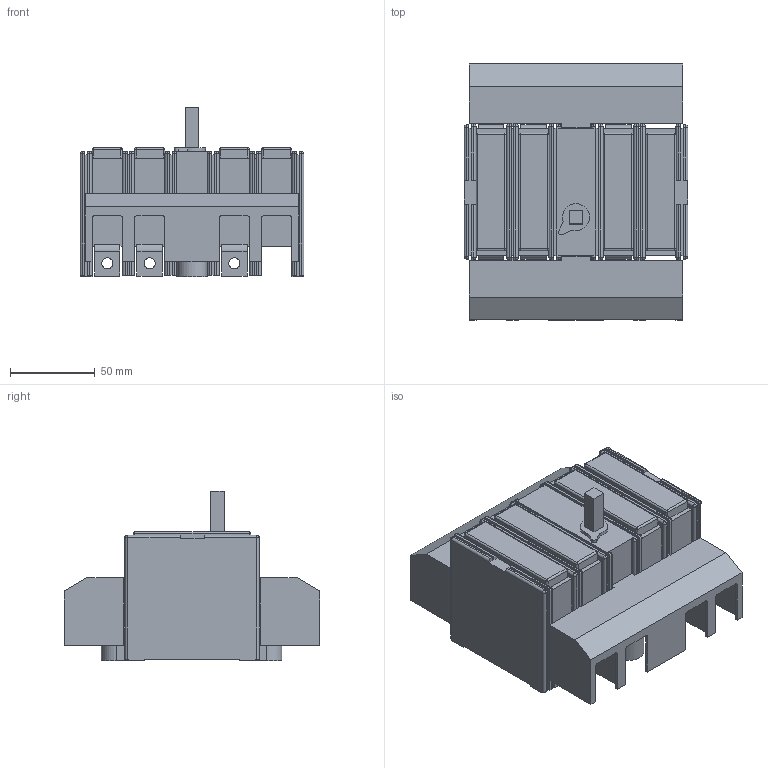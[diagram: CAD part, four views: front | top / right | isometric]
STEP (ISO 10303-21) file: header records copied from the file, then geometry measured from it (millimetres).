
FILE_DESCRIPTION(/* description */ (''),/* implementation_level */ '2;1');
FILE_NAME(/* name */ 'RA100 P3 C z oslonka zaciskow.stp',/* time_stamp */ '2021-08-17T14:42:56+02:00',/* author */ (''),/* organization */ (''),/* preprocessor_version */ 'ST-DEVELOPER v18.1',/* originating_system */ 'SIEMENS PLM Software NX 1965',/* authorisation */ '');
FILE_SCHEMA (('AUTOMOTIVE_DESIGN { 1 0 10303 214 3 1 1 1 }'));
Length unit declared in the file: millimetre
Products named in the file (1): RA100 P3 C z oslonka zaciskow_stp
Bounding box: 132 x 151.03 x 100 mm (x, y, z)
Volume: 695668.9 mm3; surface area: 127511.7 mm2
Topology: 1 solids, 1 shells, 489 faces, 1336 edges, 819 vertices
Faces by surface type: plane 306, cylinder 143, sphere 39, bspline 1
Full cylindrical faces by diameter (mm): 5.8 x2, 6.5 x6, 10 x2, 11.5 x2
Entity records: 14900 total; most frequent: CARTESIAN_POINT 2623, ORIENTED_EDGE 2556, DIRECTION 2538, EDGE_CURVE 1278, LINE 990, VECTOR 990, VERTEX_POINT 813, AXIS2_PLACEMENT_3D 774
